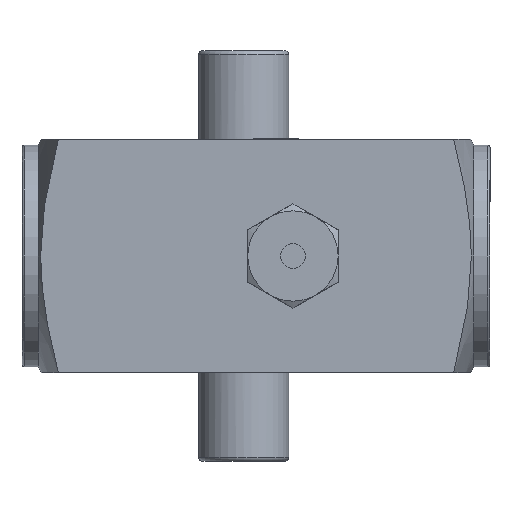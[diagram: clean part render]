
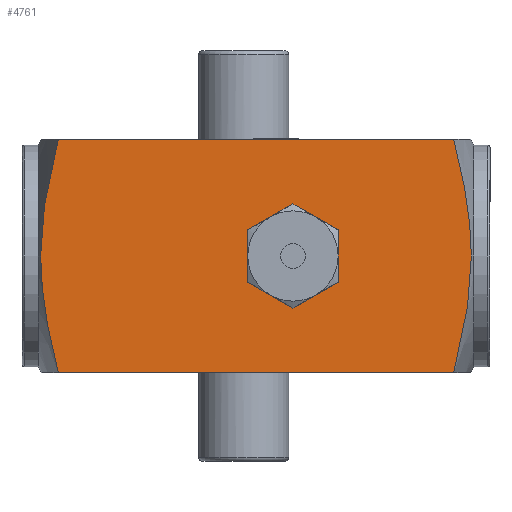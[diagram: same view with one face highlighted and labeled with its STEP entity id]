
A CAD part, front view. The second image highlights one B-rep face of the part: STEP entity #4761.
In plain terms, the highlighted planar face has unit normal (0, -1, 0).
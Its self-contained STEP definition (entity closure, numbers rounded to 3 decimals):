
#169=(
BOUNDED_CURVE()
B_SPLINE_CURVE(2,(#8178,#8179,#8180),.UNSPECIFIED.,.F.,.F.)
B_SPLINE_CURVE_WITH_KNOTS((3,3),(-24.571,-16.915),
 .UNSPECIFIED.)
CURVE()
GEOMETRIC_REPRESENTATION_ITEM()
RATIONAL_B_SPLINE_CURVE((5.097,6.153,6.153))
REPRESENTATION_ITEM('')
);
#172=(
BOUNDED_CURVE()
B_SPLINE_CURVE(2,(#8189,#8190,#8191,#8192),.UNSPECIFIED.,.F.,.F.)
B_SPLINE_CURVE_WITH_KNOTS((3,1,3),(-16.915,-14.019,
-9.259),.UNSPECIFIED.)
CURVE()
GEOMETRIC_REPRESENTATION_ITEM()
RATIONAL_B_SPLINE_CURVE((6.153,6.153,5.754,
5.097))
REPRESENTATION_ITEM('')
);
#173=(
BOUNDED_CURVE()
B_SPLINE_CURVE(2,(#8197,#8198,#8199),.UNSPECIFIED.,.F.,.F.)
B_SPLINE_CURVE_WITH_KNOTS((3,3),(-24.833,-17.1),
 .UNSPECIFIED.)
CURVE()
GEOMETRIC_REPRESENTATION_ITEM()
RATIONAL_B_SPLINE_CURVE((5.148,6.214,6.214))
REPRESENTATION_ITEM('')
);
#176=(
BOUNDED_CURVE()
B_SPLINE_CURVE(2,(#8207,#8208,#8209,#8210),.UNSPECIFIED.,.F.,.F.)
B_SPLINE_CURVE_WITH_KNOTS((3,1,3),(-17.1,-14.271,
-9.368),.UNSPECIFIED.)
CURVE()
GEOMETRIC_REPRESENTATION_ITEM()
RATIONAL_B_SPLINE_CURVE((6.214,6.214,5.824,
5.148))
REPRESENTATION_ITEM('')
);
#233=FACE_BOUND('',#1776,.T.);
#389=PLANE('',#5107);
#763=LINE('',#8060,#1174);
#800=LINE('',#8215,#1211);
#1174=VECTOR('',#6019,10.);
#1211=VECTOR('',#6168,10.);
#1494=FACE_OUTER_BOUND('',#1775,.T.);
#1775=EDGE_LOOP('',(#4244,#4245,#4246,#4247,#4248,#4249));
#1776=EDGE_LOOP('',(#4250));
#1878=CIRCLE('',#5076,4.);
#2275=VERTEX_POINT('',#8055);
#2276=VERTEX_POINT('',#8059);
#2292=VERTEX_POINT('',#8118);
#2304=VERTEX_POINT('',#8177);
#2306=VERTEX_POINT('',#8185);
#2307=VERTEX_POINT('',#8195);
#2308=VERTEX_POINT('',#8196);
#2892=EDGE_CURVE('',#2275,#2276,#763,.T.);
#2919=EDGE_CURVE('',#2292,#2292,#1878,.T.);
#2945=EDGE_CURVE('',#2275,#2304,#169,.T.);
#2948=EDGE_CURVE('',#2304,#2306,#172,.T.);
#2950=EDGE_CURVE('',#2307,#2308,#173,.T.);
#2953=EDGE_CURVE('',#2308,#2276,#176,.T.);
#2956=EDGE_CURVE('',#2306,#2307,#800,.T.);
#4244=ORIENTED_EDGE('',*,*,#2945,.T.);
#4245=ORIENTED_EDGE('',*,*,#2948,.T.);
#4246=ORIENTED_EDGE('',*,*,#2956,.T.);
#4247=ORIENTED_EDGE('',*,*,#2950,.T.);
#4248=ORIENTED_EDGE('',*,*,#2953,.T.);
#4249=ORIENTED_EDGE('',*,*,#2892,.F.);
#4250=ORIENTED_EDGE('',*,*,#2919,.T.);
#4761=ADVANCED_FACE('',(#1494,#233),#389,.T.);
#5076=AXIS2_PLACEMENT_3D('',#8120,#6086,#6087);
#5107=AXIS2_PLACEMENT_3D('',#8217,#6171,#6172);
#6019=DIRECTION('',(1.,0.,0.));
#6086=DIRECTION('center_axis',(0.,1.,0.));
#6087=DIRECTION('ref_axis',(0.,0.,-1.));
#6168=DIRECTION('',(1.,0.,0.));
#6171=DIRECTION('center_axis',(0.,-1.,0.));
#6172=DIRECTION('ref_axis',(1.,0.,0.));
#8055=CARTESIAN_POINT('',(-50.498,-28.826,14.25));
#8059=CARTESIAN_POINT('',(-2.341,-28.826,14.25));
#8060=CARTESIAN_POINT('',(-27.919,-28.826,14.25));
#8118=CARTESIAN_POINT('',(-21.919,-28.826,4.));
#8120=CARTESIAN_POINT('Origin',(-21.919,-28.826,0.));
#8177=CARTESIAN_POINT('',(-52.646,-28.826,0.));
#8178=CARTESIAN_POINT('Ctrl Pts',(-50.498,-28.826,14.25));
#8179=CARTESIAN_POINT('Ctrl Pts',(-52.646,-28.826,5.903));
#8180=CARTESIAN_POINT('Ctrl Pts',(-52.646,-28.826,0.));
#8185=CARTESIAN_POINT('',(-50.498,-28.826,-14.25));
#8189=CARTESIAN_POINT('Ctrl Pts',(-52.646,-28.826,0.));
#8190=CARTESIAN_POINT('Ctrl Pts',(-52.646,-28.826,-2.233));
#8191=CARTESIAN_POINT('Ctrl Pts',(-51.926,-28.826,-8.7));
#8192=CARTESIAN_POINT('Ctrl Pts',(-50.498,-28.826,-14.25));
#8195=CARTESIAN_POINT('',(-2.341,-28.826,-14.25));
#8196=CARTESIAN_POINT('',(-0.192,-28.826,0.));
#8197=CARTESIAN_POINT('Ctrl Pts',(-2.341,-28.826,-14.25));
#8198=CARTESIAN_POINT('Ctrl Pts',(-0.192,-28.826,
-5.903));
#8199=CARTESIAN_POINT('Ctrl Pts',(-0.192,-28.826,
0.));
#8207=CARTESIAN_POINT('Ctrl Pts',(-0.192,-28.826,
0.));
#8208=CARTESIAN_POINT('Ctrl Pts',(-0.192,-28.826,
2.16));
#8209=CARTESIAN_POINT('Ctrl Pts',(-0.887,-28.826,
8.602));
#8210=CARTESIAN_POINT('Ctrl Pts',(-2.341,-28.826,14.25));
#8215=CARTESIAN_POINT('',(-27.919,-28.826,-14.25));
#8217=CARTESIAN_POINT('Origin',(-27.919,-28.826,14.25));
